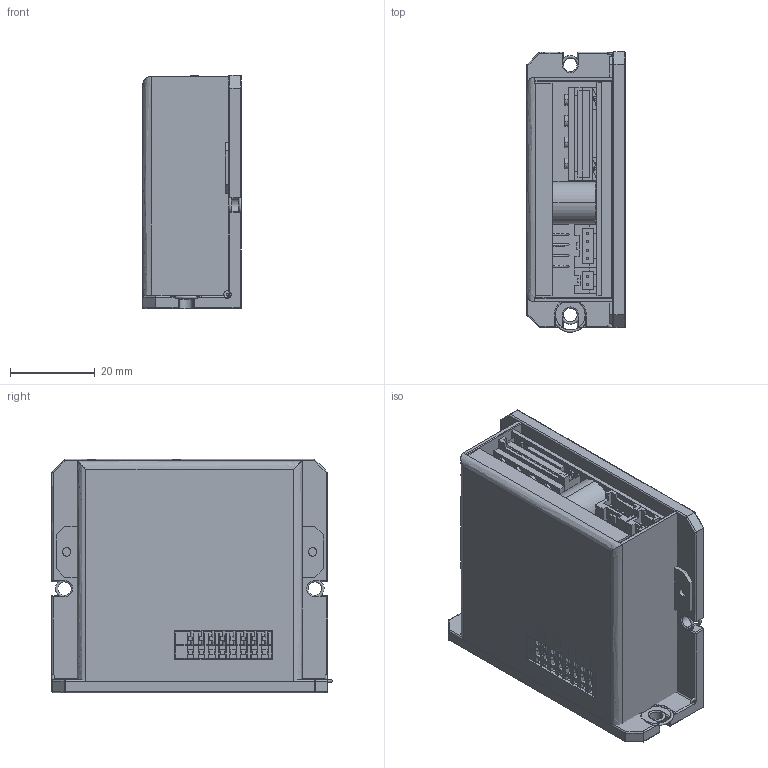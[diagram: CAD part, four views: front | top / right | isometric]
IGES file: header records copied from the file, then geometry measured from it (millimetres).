
Start section: 3D InterOp IGES (Version 21 0 2), Spatial Corp. Copyright (c) 1999-2007.
Global section: file name: Ezi_STEP_MINI.igs; native system: Spatial Corp.; preprocessor: 3D InterOp GENERIC/IGES 3.0; author: Noname; organization: Noname; date: 20110315.115503; units: millimetre
Bounding box: 23.3 x 66.08 x 55 mm (x, y, z)
Surface area: 30913 mm2 (no closed solid volume)
Topology: 0 solids, 0 shells, 1244 faces, 5936 edges, 5592 vertices
Faces by surface type: extrusion 666, revolution 578
